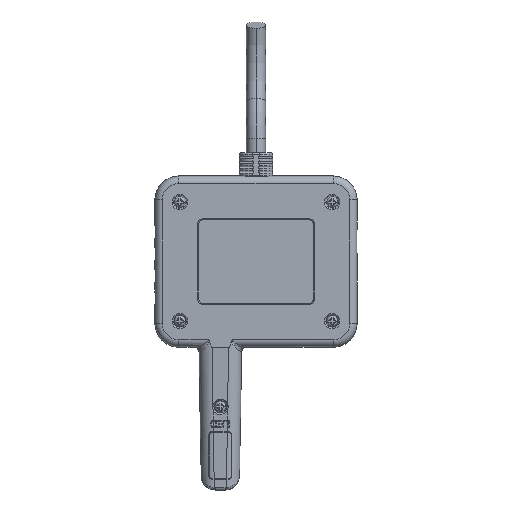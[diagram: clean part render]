
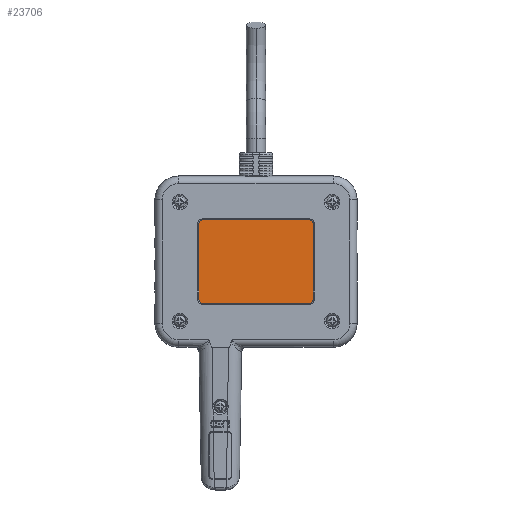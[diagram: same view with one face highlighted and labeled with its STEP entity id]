
A CAD part, front view. The second image highlights one B-rep face of the part: STEP entity #23706.
In plain terms, the highlighted planar face has unit normal (0, -1, 0).
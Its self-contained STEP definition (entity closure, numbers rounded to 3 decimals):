
#8872=DIRECTION('',(1.,0.,0.));
#8873=VECTOR('',#8872,44.5);
#8874=CARTESIAN_POINT('',(-7.25,-6.5,88.542));
#8875=LINE('',#8874,#8873);
#8876=CARTESIAN_POINT('',(37.25,-6.5,86.742));
#8877=DIRECTION('',(0.,1.,0.));
#8878=DIRECTION('',(0.,0.,1.));
#8879=AXIS2_PLACEMENT_3D('',#8876,#8877,#8878);
#8881=DIRECTION('',(0.,0.,-1.));
#8882=VECTOR('',#8881,31.5);
#8883=CARTESIAN_POINT('',(39.05,-6.5,86.742));
#8884=LINE('',#8883,#8882);
#8885=CARTESIAN_POINT('',(37.25,-6.5,55.242));
#8886=DIRECTION('',(0.,1.,0.));
#8887=DIRECTION('',(1.,0.,0.));
#8888=AXIS2_PLACEMENT_3D('',#8885,#8886,#8887);
#8890=DIRECTION('',(-1.,0.,0.));
#8891=VECTOR('',#8890,44.5);
#8892=CARTESIAN_POINT('',(37.25,-6.5,53.442));
#8893=LINE('',#8892,#8891);
#8894=CARTESIAN_POINT('',(-7.25,-6.5,55.242));
#8895=DIRECTION('',(0.,1.,0.));
#8896=DIRECTION('',(0.,0.,-1.));
#8897=AXIS2_PLACEMENT_3D('',#8894,#8895,#8896);
#8899=DIRECTION('',(0.,0.,1.));
#8900=VECTOR('',#8899,31.5);
#8901=CARTESIAN_POINT('',(-9.05,-6.5,55.242));
#8902=LINE('',#8901,#8900);
#8903=CARTESIAN_POINT('',(-7.25,-6.5,86.742));
#8904=DIRECTION('',(0.,1.,0.));
#8905=DIRECTION('',(-1.,0.,0.));
#8906=AXIS2_PLACEMENT_3D('',#8903,#8904,#8905);
#9288=CARTESIAN_POINT('',(-7.25,-6.5,88.542));
#9289=CARTESIAN_POINT('',(37.25,-6.5,88.542));
#9290=VERTEX_POINT('',#9288);
#9291=VERTEX_POINT('',#9289);
#9296=CARTESIAN_POINT('',(39.05,-6.5,86.742));
#9297=VERTEX_POINT('',#9296);
#9300=CARTESIAN_POINT('',(39.05,-6.5,55.242));
#9301=VERTEX_POINT('',#9300);
#9304=CARTESIAN_POINT('',(37.25,-6.5,53.442));
#9305=VERTEX_POINT('',#9304);
#9308=CARTESIAN_POINT('',(-7.25,-6.5,53.442));
#9309=VERTEX_POINT('',#9308);
#9312=CARTESIAN_POINT('',(-9.05,-6.5,55.242));
#9313=VERTEX_POINT('',#9312);
#9316=CARTESIAN_POINT('',(-9.05,-6.5,86.742));
#9317=VERTEX_POINT('',#9316);
#23684=CARTESIAN_POINT('',(0.,-6.5,0.));
#23685=DIRECTION('',(0.,-1.,0.));
#23686=DIRECTION('',(-1.,0.,0.));
#23687=AXIS2_PLACEMENT_3D('',#23684,#23685,#23686);
#23688=PLANE('',#23687);
#23690=ORIENTED_EDGE('',*,*,#23689,.T.);
#23692=ORIENTED_EDGE('',*,*,#23691,.T.);
#23694=ORIENTED_EDGE('',*,*,#23693,.T.);
#23696=ORIENTED_EDGE('',*,*,#23695,.T.);
#23698=ORIENTED_EDGE('',*,*,#23697,.T.);
#23700=ORIENTED_EDGE('',*,*,#23699,.T.);
#23701=ORIENTED_EDGE('',*,*,#23674,.T.);
#23703=ORIENTED_EDGE('',*,*,#23702,.T.);
#23704=EDGE_LOOP('',(#23690,#23692,#23694,#23696,#23698,#23700,#23701,#23703));
#23705=FACE_OUTER_BOUND('',#23704,.F.);
#8880=CIRCLE('',#8879,1.8);
#8889=CIRCLE('',#8888,1.8);
#8898=CIRCLE('',#8897,1.8);
#8907=CIRCLE('',#8906,1.8);
#23674=EDGE_CURVE('',#9313,#9317,#8902,.T.);
#23689=EDGE_CURVE('',#9290,#9291,#8875,.T.);
#23691=EDGE_CURVE('',#9291,#9297,#8880,.T.);
#23693=EDGE_CURVE('',#9297,#9301,#8884,.T.);
#23695=EDGE_CURVE('',#9301,#9305,#8889,.T.);
#23697=EDGE_CURVE('',#9305,#9309,#8893,.T.);
#23699=EDGE_CURVE('',#9309,#9313,#8898,.T.);
#23702=EDGE_CURVE('',#9317,#9290,#8907,.T.);
#23706=ADVANCED_FACE('',(#23705),#23688,.T.);
